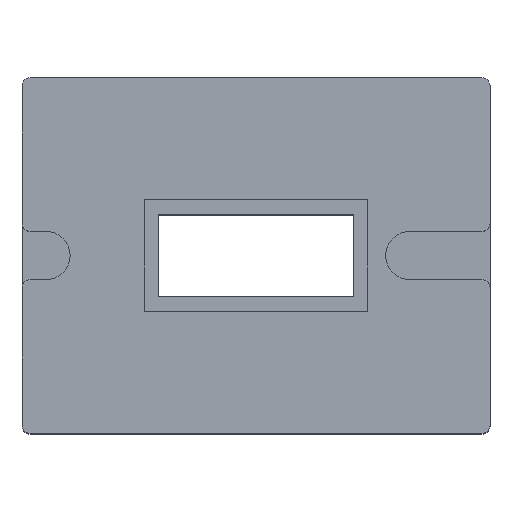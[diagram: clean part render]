
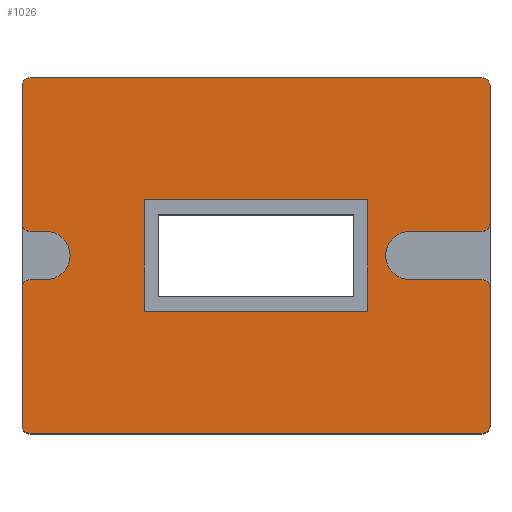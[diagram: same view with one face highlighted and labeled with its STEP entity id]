
A CAD part, top view. The second image highlights one B-rep face of the part: STEP entity #1026.
In plain terms, the highlighted planar face has unit normal (0, 0, 1).
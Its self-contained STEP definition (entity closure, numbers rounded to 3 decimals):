
#19=FACE_BOUND('',#164,.T.);
#51=PLANE('',#1137);
#105=FACE_OUTER_BOUND('',#163,.T.);
#163=EDGE_LOOP('',(#919,#920,#921,#922,#923,#924,#925,#926,#927,#928,#929,
#930,#931,#932,#933,#934,#935,#936,#937,#938));
#164=EDGE_LOOP('',(#939,#940,#941,#942));
#191=LINE('',#1511,#300);
#208=LINE('',#1574,#317);
#212=LINE('',#1584,#321);
#215=LINE('',#1592,#324);
#218=LINE('',#1600,#327);
#221=LINE('',#1608,#330);
#224=LINE('',#1616,#333);
#227=LINE('',#1625,#336);
#229=LINE('',#1629,#338);
#231=LINE('',#1636,#340);
#248=LINE('',#1673,#357);
#252=LINE('',#1681,#361);
#255=LINE('',#1687,#364);
#258=LINE('',#1692,#367);
#300=VECTOR('',#1212,10.);
#317=VECTOR('',#1265,10.);
#321=VECTOR('',#1275,10.);
#324=VECTOR('',#1284,10.);
#327=VECTOR('',#1293,10.);
#330=VECTOR('',#1302,10.);
#333=VECTOR('',#1311,10.);
#336=VECTOR('',#1320,10.);
#338=VECTOR('',#1324,10.);
#340=VECTOR('',#1336,10.);
#357=VECTOR('',#1365,10.);
#361=VECTOR('',#1371,10.);
#364=VECTOR('',#1376,10.);
#367=VECTOR('',#1381,10.);
#399=CIRCLE('',#1071,0.5);
#415=CIRCLE('',#1090,0.5);
#416=CIRCLE('',#1093,0.5);
#417=CIRCLE('',#1096,0.5);
#418=CIRCLE('',#1099,0.5);
#419=CIRCLE('',#1102,0.5);
#420=CIRCLE('',#1105,0.5);
#421=CIRCLE('',#1108,0.5);
#422=CIRCLE('',#1112,1.5);
#423=CIRCLE('',#1114,1.5);
#448=VERTEX_POINT('',#1498);
#449=VERTEX_POINT('',#1499);
#453=VERTEX_POINT('',#1509);
#480=VERTEX_POINT('',#1568);
#481=VERTEX_POINT('',#1572);
#482=VERTEX_POINT('',#1576);
#483=VERTEX_POINT('',#1577);
#484=VERTEX_POINT('',#1582);
#485=VERTEX_POINT('',#1586);
#486=VERTEX_POINT('',#1590);
#487=VERTEX_POINT('',#1594);
#488=VERTEX_POINT('',#1596);
#489=VERTEX_POINT('',#1602);
#490=VERTEX_POINT('',#1606);
#491=VERTEX_POINT('',#1610);
#492=VERTEX_POINT('',#1614);
#493=VERTEX_POINT('',#1618);
#494=VERTEX_POINT('',#1620);
#495=VERTEX_POINT('',#1624);
#496=VERTEX_POINT('',#1628);
#509=VERTEX_POINT('',#1671);
#510=VERTEX_POINT('',#1672);
#513=VERTEX_POINT('',#1680);
#515=VERTEX_POINT('',#1686);
#551=EDGE_CURVE('',#448,#449,#399,.T.);
#557=EDGE_CURVE('',#448,#453,#191,.T.);
#586=EDGE_CURVE('',#480,#453,#415,.T.);
#589=EDGE_CURVE('',#480,#481,#208,.T.);
#590=EDGE_CURVE('',#482,#483,#416,.T.);
#594=EDGE_CURVE('',#482,#484,#212,.T.);
#595=EDGE_CURVE('',#485,#484,#417,.T.);
#598=EDGE_CURVE('',#485,#486,#215,.T.);
#600=EDGE_CURVE('',#487,#488,#418,.T.);
#602=EDGE_CURVE('',#487,#449,#218,.T.);
#603=EDGE_CURVE('',#489,#486,#419,.T.);
#606=EDGE_CURVE('',#489,#490,#221,.T.);
#607=EDGE_CURVE('',#491,#481,#420,.T.);
#610=EDGE_CURVE('',#491,#492,#224,.T.);
#612=EDGE_CURVE('',#493,#494,#421,.T.);
#614=EDGE_CURVE('',#495,#494,#227,.T.);
#616=EDGE_CURVE('',#496,#488,#229,.T.);
#618=EDGE_CURVE('',#490,#496,#422,.T.);
#619=EDGE_CURVE('',#492,#495,#423,.T.);
#620=EDGE_CURVE('',#493,#483,#231,.T.);
#637=EDGE_CURVE('',#509,#510,#248,.T.);
#641=EDGE_CURVE('',#510,#513,#252,.T.);
#644=EDGE_CURVE('',#513,#515,#255,.T.);
#647=EDGE_CURVE('',#515,#509,#258,.T.);
#919=ORIENTED_EDGE('',*,*,#551,.F.);
#920=ORIENTED_EDGE('',*,*,#557,.T.);
#921=ORIENTED_EDGE('',*,*,#586,.F.);
#922=ORIENTED_EDGE('',*,*,#589,.T.);
#923=ORIENTED_EDGE('',*,*,#607,.F.);
#924=ORIENTED_EDGE('',*,*,#610,.T.);
#925=ORIENTED_EDGE('',*,*,#619,.T.);
#926=ORIENTED_EDGE('',*,*,#614,.T.);
#927=ORIENTED_EDGE('',*,*,#612,.F.);
#928=ORIENTED_EDGE('',*,*,#620,.T.);
#929=ORIENTED_EDGE('',*,*,#590,.F.);
#930=ORIENTED_EDGE('',*,*,#594,.T.);
#931=ORIENTED_EDGE('',*,*,#595,.F.);
#932=ORIENTED_EDGE('',*,*,#598,.T.);
#933=ORIENTED_EDGE('',*,*,#603,.F.);
#934=ORIENTED_EDGE('',*,*,#606,.T.);
#935=ORIENTED_EDGE('',*,*,#618,.T.);
#936=ORIENTED_EDGE('',*,*,#616,.T.);
#937=ORIENTED_EDGE('',*,*,#600,.F.);
#938=ORIENTED_EDGE('',*,*,#602,.T.);
#939=ORIENTED_EDGE('',*,*,#637,.T.);
#940=ORIENTED_EDGE('',*,*,#641,.T.);
#941=ORIENTED_EDGE('',*,*,#644,.T.);
#942=ORIENTED_EDGE('',*,*,#647,.T.);
#1026=ADVANCED_FACE('',(#105,#19),#51,.T.);
#1071=AXIS2_PLACEMENT_3D('',#1500,#1202,#1203);
#1090=AXIS2_PLACEMENT_3D('',#1569,#1259,#1260);
#1093=AXIS2_PLACEMENT_3D('',#1578,#1268,#1269);
#1096=AXIS2_PLACEMENT_3D('',#1587,#1278,#1279);
#1099=AXIS2_PLACEMENT_3D('',#1597,#1288,#1289);
#1102=AXIS2_PLACEMENT_3D('',#1603,#1296,#1297);
#1105=AXIS2_PLACEMENT_3D('',#1611,#1305,#1306);
#1108=AXIS2_PLACEMENT_3D('',#1621,#1315,#1316);
#1112=AXIS2_PLACEMENT_3D('',#1632,#1328,#1329);
#1114=AXIS2_PLACEMENT_3D('',#1634,#1332,#1333);
#1137=AXIS2_PLACEMENT_3D('',#1724,#1421,#1422);
#1202=DIRECTION('center_axis',(0.,0.,-1.));
#1203=DIRECTION('ref_axis',(-0.707,-0.707,0.));
#1212=DIRECTION('',(1.,0.,0.));
#1259=DIRECTION('center_axis',(0.,0.,-1.));
#1260=DIRECTION('ref_axis',(0.707,-0.707,0.));
#1265=DIRECTION('',(0.,1.,0.));
#1268=DIRECTION('center_axis',(0.,0.,-1.));
#1269=DIRECTION('ref_axis',(0.707,0.707,0.));
#1275=DIRECTION('',(-1.,0.,0.));
#1278=DIRECTION('center_axis',(0.,0.,-1.));
#1279=DIRECTION('ref_axis',(-0.707,0.707,0.));
#1284=DIRECTION('',(0.,-1.,0.));
#1288=DIRECTION('center_axis',(0.,0.,-1.));
#1289=DIRECTION('ref_axis',(-0.707,0.707,0.));
#1293=DIRECTION('',(0.,-1.,0.));
#1296=DIRECTION('center_axis',(0.,0.,-1.));
#1297=DIRECTION('ref_axis',(-0.707,-0.707,0.));
#1302=DIRECTION('',(1.,0.,0.));
#1305=DIRECTION('center_axis',(0.,0.,-1.));
#1306=DIRECTION('ref_axis',(0.707,0.707,0.));
#1311=DIRECTION('',(-1.,0.,0.));
#1315=DIRECTION('center_axis',(0.,0.,-1.));
#1316=DIRECTION('ref_axis',(0.707,-0.707,0.));
#1320=DIRECTION('',(1.,0.,0.));
#1324=DIRECTION('',(-1.,0.,0.));
#1328=DIRECTION('center_axis',(0.,0.,-1.));
#1329=DIRECTION('ref_axis',(0.,1.,0.));
#1332=DIRECTION('center_axis',(0.,0.,-1.));
#1333=DIRECTION('ref_axis',(0.,1.,0.));
#1336=DIRECTION('',(0.,1.,0.));
#1365=DIRECTION('',(1.,0.,0.));
#1371=DIRECTION('',(0.,-1.,0.));
#1376=DIRECTION('',(-1.,0.,0.));
#1381=DIRECTION('',(0.,1.,0.));
#1421=DIRECTION('center_axis',(0.,0.,1.));
#1422=DIRECTION('ref_axis',(1.,0.,0.));
#1498=CARTESIAN_POINT('',(-14.075,-11.075,31.));
#1499=CARTESIAN_POINT('',(-14.575,-10.575,31.));
#1500=CARTESIAN_POINT('Origin',(-14.075,-10.575,31.));
#1509=CARTESIAN_POINT('',(14.075,-11.075,31.));
#1511=CARTESIAN_POINT('',(14.575,-11.075,31.));
#1568=CARTESIAN_POINT('',(14.575,-10.575,31.));
#1569=CARTESIAN_POINT('Origin',(14.075,-10.575,31.));
#1572=CARTESIAN_POINT('',(14.575,-2.,31.));
#1574=CARTESIAN_POINT('',(14.575,11.075,31.));
#1576=CARTESIAN_POINT('',(14.075,11.075,31.));
#1577=CARTESIAN_POINT('',(14.575,10.575,31.));
#1578=CARTESIAN_POINT('Origin',(14.075,10.575,31.));
#1582=CARTESIAN_POINT('',(-14.075,11.075,31.));
#1584=CARTESIAN_POINT('',(-14.575,11.075,31.));
#1586=CARTESIAN_POINT('',(-14.575,10.575,31.));
#1587=CARTESIAN_POINT('Origin',(-14.075,10.575,31.));
#1590=CARTESIAN_POINT('',(-14.575,2.,31.));
#1592=CARTESIAN_POINT('',(-14.575,-11.075,31.));
#1594=CARTESIAN_POINT('',(-14.575,-2.,31.));
#1596=CARTESIAN_POINT('',(-14.075,-1.5,31.));
#1597=CARTESIAN_POINT('Origin',(-14.075,-2.,31.));
#1600=CARTESIAN_POINT('',(-14.575,-11.075,31.));
#1602=CARTESIAN_POINT('',(-14.075,1.5,31.));
#1603=CARTESIAN_POINT('Origin',(-14.075,2.,31.));
#1606=CARTESIAN_POINT('',(-13.075,1.5,31.));
#1608=CARTESIAN_POINT('',(-6.538,1.5,31.));
#1610=CARTESIAN_POINT('',(14.075,-1.5,31.));
#1611=CARTESIAN_POINT('Origin',(14.075,-2.,31.));
#1614=CARTESIAN_POINT('',(9.575,-1.5,31.));
#1616=CARTESIAN_POINT('',(4.788,-1.5,31.));
#1618=CARTESIAN_POINT('',(14.575,2.,31.));
#1620=CARTESIAN_POINT('',(14.075,1.5,31.));
#1621=CARTESIAN_POINT('Origin',(14.075,2.,31.));
#1624=CARTESIAN_POINT('',(9.575,1.5,31.));
#1625=CARTESIAN_POINT('',(7.288,1.5,31.));
#1628=CARTESIAN_POINT('',(-13.075,-1.5,31.));
#1629=CARTESIAN_POINT('',(-7.288,-1.5,31.));
#1632=CARTESIAN_POINT('Origin',(-13.075,0.,31.));
#1634=CARTESIAN_POINT('Origin',(9.575,0.,31.));
#1636=CARTESIAN_POINT('',(14.575,11.075,31.));
#1671=CARTESIAN_POINT('',(-6.975,3.475,31.));
#1672=CARTESIAN_POINT('',(6.975,3.475,31.));
#1673=CARTESIAN_POINT('',(3.488,3.475,31.));
#1680=CARTESIAN_POINT('',(6.975,-3.475,31.));
#1681=CARTESIAN_POINT('',(6.975,-1.738,31.));
#1686=CARTESIAN_POINT('',(-6.975,-3.475,31.));
#1687=CARTESIAN_POINT('',(-3.488,-3.475,31.));
#1692=CARTESIAN_POINT('',(-6.975,1.738,31.));
#1724=CARTESIAN_POINT('Origin',(0.,0.,31.));
